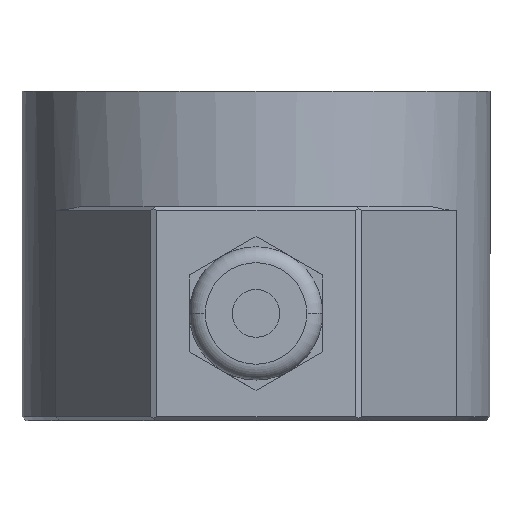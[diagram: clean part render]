
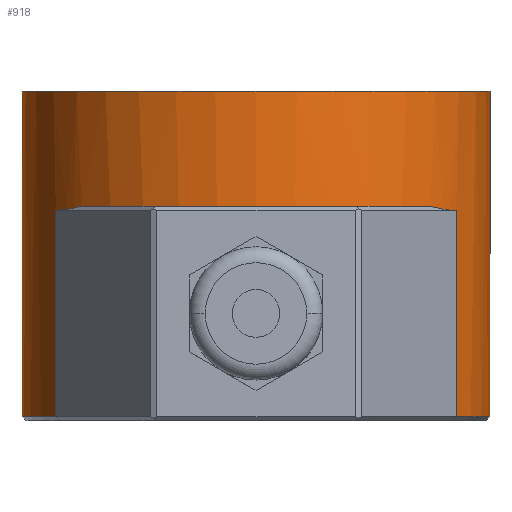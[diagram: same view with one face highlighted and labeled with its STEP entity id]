
A CAD part, front view. The second image highlights one B-rep face of the part: STEP entity #918.
In plain terms, the highlighted cylindrical face has radius 29.5 mm (diameter 59 mm), a partial arc.
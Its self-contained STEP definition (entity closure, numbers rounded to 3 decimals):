
#915 = VERTEX_POINT ( 'NONE', #5740 ) ;
#917 = EDGE_LOOP ( 'NONE', ( #923, #920, #1800, #1799, #1788, #982, #985, #998, #1792, #1794 ) ) ;
#918 = ADVANCED_FACE ( 'NONE', ( #5796 ), #5795, .T. ) ;
#919 = VERTEX_POINT ( 'NONE', #5790 ) ;
#920 = ORIENTED_EDGE ( 'NONE', *, *, #935, .T. ) ;
#921 = VERTEX_POINT ( 'NONE', #5789 ) ;
#923 = ORIENTED_EDGE ( 'NONE', *, *, #925, .F. ) ;
#924 = EDGE_CURVE ( 'NONE', #926, #915, #5784, .T. ) ;
#925 = EDGE_CURVE ( 'NONE', #921, #919, #5779, .T. ) ;
#926 = VERTEX_POINT ( 'NONE', #5774 ) ;
#935 = EDGE_CURVE ( 'NONE', #921, #979, #5813, .T. ) ;
#975 = EDGE_CURVE ( 'NONE', #983, #984, #5889, .T. ) ;
#976 = VERTEX_POINT ( 'NONE', #5884 ) ;
#979 = VERTEX_POINT ( 'NONE', #5938 ) ;
#980 = EDGE_CURVE ( 'NONE', #984, #976, #5936, .T. ) ;
#982 = ORIENTED_EDGE ( 'NONE', *, *, #975, .T. ) ;
#983 = VERTEX_POINT ( 'NONE', #5937 ) ;
#984 = VERTEX_POINT ( 'NONE', #5931 ) ;
#985 = ORIENTED_EDGE ( 'NONE', *, *, #980, .T. ) ;
#998 = ORIENTED_EDGE ( 'NONE', *, *, #1001, .T. ) ;
#1001 = EDGE_CURVE ( 'NONE', #976, #926, #5957, .T. ) ;
#1782 = VERTEX_POINT ( 'NONE', #9072 ) ;
#1785 = EDGE_CURVE ( 'NONE', #979, #1782, #9129, .T. ) ;
#1787 = EDGE_CURVE ( 'NONE', #1789, #1782, #9108, .T. ) ;
#1788 = ORIENTED_EDGE ( 'NONE', *, *, #1796, .T. ) ;
#1789 = VERTEX_POINT ( 'NONE', #9104 ) ;
#1790 = EDGE_CURVE ( 'NONE', #919, #915, #9103, .T. ) ;
#1792 = ORIENTED_EDGE ( 'NONE', *, *, #924, .T. ) ;
#1794 = ORIENTED_EDGE ( 'NONE', *, *, #1790, .F. ) ;
#1796 = EDGE_CURVE ( 'NONE', #1789, #983, #9148, .T. ) ;
#1799 = ORIENTED_EDGE ( 'NONE', *, *, #1787, .F. ) ;
#1800 = ORIENTED_EDGE ( 'NONE', *, *, #1785, .T. ) ;
#5740 = CARTESIAN_POINT ( 'NONE',  ( 29.5, 0., 0.5 ) ) ;
#5774 = CARTESIAN_POINT ( 'NONE',  ( 25.24, -15.271, 0.5 ) ) ;
#5775 = DIRECTION ( 'NONE',  ( -1., 0., 0. ) ) ;
#5776 = DIRECTION ( 'NONE',  ( 0., 0., 1. ) ) ;
#5777 = CARTESIAN_POINT ( 'NONE',  ( 0., 0., 41.5 ) ) ;
#5778 = AXIS2_PLACEMENT_3D ( 'NONE', #5777, #5776, #5775 ) ;
#5779 = CIRCLE ( 'NONE', #5778, 29.5 ) ;
#5780 = DIRECTION ( 'NONE',  ( -1., 0., 0. ) ) ;
#5781 = DIRECTION ( 'NONE',  ( 0., 0., 1. ) ) ;
#5782 = CARTESIAN_POINT ( 'NONE',  ( 0., 0., 0.5 ) ) ;
#5783 = AXIS2_PLACEMENT_3D ( 'NONE', #5782, #5781, #5780 ) ;
#5784 = CIRCLE ( 'NONE', #5783, 29.5 ) ;
#5789 = CARTESIAN_POINT ( 'NONE',  ( -29.5, 0., 41.5 ) ) ;
#5790 = CARTESIAN_POINT ( 'NONE',  ( 29.5, 0., 41.5 ) ) ;
#5791 = DIRECTION ( 'NONE',  ( 1., 0., 0. ) ) ;
#5792 = DIRECTION ( 'NONE',  ( 0., 0., -1. ) ) ;
#5793 = CARTESIAN_POINT ( 'NONE',  ( 0., 0., 41.5 ) ) ;
#5794 = AXIS2_PLACEMENT_3D ( 'NONE', #5793, #5792, #5791 ) ;
#5795 = CYLINDRICAL_SURFACE ( 'NONE', #5794, 29.5 ) ;
#5796 = FACE_OUTER_BOUND ( 'NONE', #917, .T. ) ;
#5810 = DIRECTION ( 'NONE',  ( 0., 0., -1. ) ) ;
#5811 = VECTOR ( 'NONE', #5810, 1000. ) ;
#5812 = CARTESIAN_POINT ( 'NONE',  ( -29.5, 0., 41.5 ) ) ;
#5813 = LINE ( 'NONE', #5812, #5811 ) ;
#5884 = CARTESIAN_POINT ( 'NONE',  ( 25.24, -15.271, 26.5 ) ) ;
#5885 = DIRECTION ( 'NONE',  ( -1., 0., 0. ) ) ;
#5886 = DIRECTION ( 'NONE',  ( 0., 0., 1. ) ) ;
#5887 = CARTESIAN_POINT ( 'NONE',  ( 0., 0., 27. ) ) ;
#5888 = AXIS2_PLACEMENT_3D ( 'NONE', #5887, #5886, #5885 ) ;
#5889 = CIRCLE ( 'NONE', #5888, 29.5 ) ;
#5931 = CARTESIAN_POINT ( 'NONE',  ( 22.012, -19.64, 27. ) ) ;
#5932 = CARTESIAN_POINT ( 'NONE',  ( 25.24, -15.271, 26.5 ) ) ;
#5933 = CARTESIAN_POINT ( 'NONE',  ( 24.3, -16.825, 26.5 ) ) ;
#5934 = CARTESIAN_POINT ( 'NONE',  ( 23.221, -18.285, 26.667 ) ) ;
#5935 = CARTESIAN_POINT ( 'NONE',  ( 22.012, -19.64, 27. ) ) ;
#5936 =( BOUNDED_CURVE ( )  B_SPLINE_CURVE ( 3, ( #5935, #5934, #5933, #5932 ),
 .UNSPECIFIED., .F., .T. ) 
 B_SPLINE_CURVE_WITH_KNOTS ( ( 4, 4 ),
 ( 6.099, 6.283 ),
 .UNSPECIFIED. ) 
 CURVE ( )  GEOMETRIC_REPRESENTATION_ITEM ( )  RATIONAL_B_SPLINE_CURVE ( ( 1., 0.997, 0.997, 1. ) ) 
 REPRESENTATION_ITEM ( '' )  );
#5937 = CARTESIAN_POINT ( 'NONE',  ( -22.012, -19.64, 27. ) ) ;
#5938 = CARTESIAN_POINT ( 'NONE',  ( -29.5, 0., 0.5 ) ) ;
#5954 = DIRECTION ( 'NONE',  ( 0., 0., -1. ) ) ;
#5955 = VECTOR ( 'NONE', #5954, 1000. ) ;
#5956 = CARTESIAN_POINT ( 'NONE',  ( 25.24, -15.271, 27. ) ) ;
#5957 = LINE ( 'NONE', #5956, #5955 ) ;
#9071 = CARTESIAN_POINT ( 'NONE',  ( 0., 0., 0.5 ) ) ;
#9072 = CARTESIAN_POINT ( 'NONE',  ( -25.24, -15.271, 0.5 ) ) ;
#9100 = DIRECTION ( 'NONE',  ( 0., 0., -1. ) ) ;
#9101 = VECTOR ( 'NONE', #9100, 1000. ) ;
#9102 = CARTESIAN_POINT ( 'NONE',  ( 29.5, 0., 41.5 ) ) ;
#9103 = LINE ( 'NONE', #9102, #9101 ) ;
#9104 = CARTESIAN_POINT ( 'NONE',  ( -25.24, -15.271, 26.5 ) ) ;
#9105 = DIRECTION ( 'NONE',  ( 0., 0., -1. ) ) ;
#9106 = VECTOR ( 'NONE', #9105, 1000. ) ;
#9107 = CARTESIAN_POINT ( 'NONE',  ( -25.24, -15.271, 27. ) ) ;
#9108 = LINE ( 'NONE', #9107, #9106 ) ;
#9110 = DIRECTION ( 'NONE',  ( -1., 0., 0. ) ) ;
#9127 = DIRECTION ( 'NONE',  ( 0., 0., 1. ) ) ;
#9128 = AXIS2_PLACEMENT_3D ( 'NONE', #9071, #9127, #9110 ) ;
#9129 = CIRCLE ( 'NONE', #9128, 29.5 ) ;
#9144 = CARTESIAN_POINT ( 'NONE',  ( -22.012, -19.64, 27. ) ) ;
#9145 = CARTESIAN_POINT ( 'NONE',  ( -23.221, -18.285, 26.667 ) ) ;
#9146 = CARTESIAN_POINT ( 'NONE',  ( -24.3, -16.825, 26.5 ) ) ;
#9147 = CARTESIAN_POINT ( 'NONE',  ( -25.24, -15.271, 26.5 ) ) ;
#9148 =( BOUNDED_CURVE ( )  B_SPLINE_CURVE ( 3, ( #9147, #9146, #9145, #9144 ),
 .UNSPECIFIED., .F., .F. ) 
 B_SPLINE_CURVE_WITH_KNOTS ( ( 4, 4 ),
 ( 0., 0.184 ),
 .UNSPECIFIED. ) 
 CURVE ( )  GEOMETRIC_REPRESENTATION_ITEM ( )  RATIONAL_B_SPLINE_CURVE ( ( 1., 0.997, 0.997, 1. ) ) 
 REPRESENTATION_ITEM ( '' )  );
